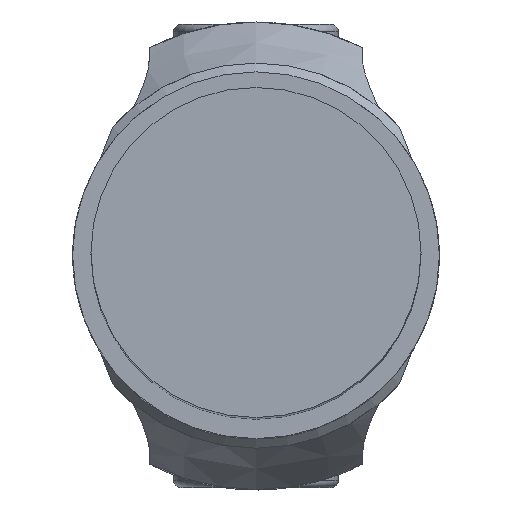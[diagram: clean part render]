
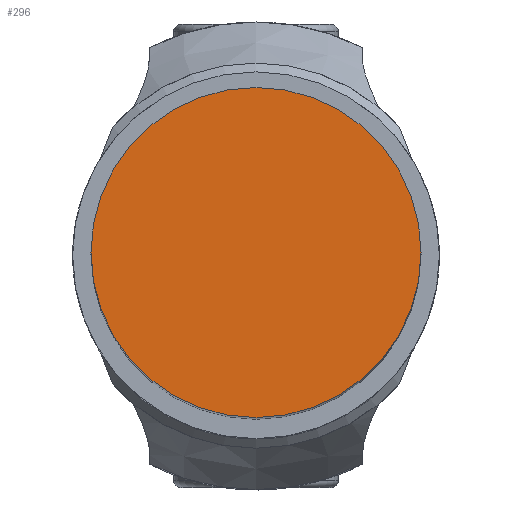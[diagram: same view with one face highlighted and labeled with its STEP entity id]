
A CAD part, top view. The second image highlights one B-rep face of the part: STEP entity #296.
In plain terms, the highlighted planar face has unit normal (0, 0, 1).
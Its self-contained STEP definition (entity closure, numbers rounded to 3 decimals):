
#51 = DIRECTION ( 'NONE',  ( 0., 1., 0. ) ) ;
#296 = ADVANCED_FACE ( 'NONE', ( #1961 ), #1206, .F. ) ;
#334 = EDGE_CURVE ( 'NONE', #2810, #1747, #1628, .T. ) ;
#708 = CARTESIAN_POINT ( 'NONE',  ( 0., -9., -90. ) ) ;
#1016 = ORIENTED_EDGE ( 'NONE', *, *, #2125, .T. ) ;
#1200 = CIRCLE ( 'NONE', #2048, 9. ) ;
#1206 = PLANE ( 'NONE',  #1524 ) ;
#1291 = AXIS2_PLACEMENT_3D ( 'NONE', #1724, #2155, #51 ) ;
#1393 = DIRECTION ( 'NONE',  ( 0., 1., 0. ) ) ;
#1524 = AXIS2_PLACEMENT_3D ( 'NONE', #2898, #1671, #2410 ) ;
#1628 = CIRCLE ( 'NONE', #1291, 9. ) ;
#1661 = ORIENTED_EDGE ( 'NONE', *, *, #334, .T. ) ;
#1671 = DIRECTION ( 'NONE',  ( 0., 0., -1. ) ) ;
#1724 = CARTESIAN_POINT ( 'NONE',  ( 0., 0., -90. ) ) ;
#1747 = VERTEX_POINT ( 'NONE', #708 ) ;
#1891 = CARTESIAN_POINT ( 'NONE',  ( 0., 9., -90. ) ) ;
#1961 = FACE_OUTER_BOUND ( 'NONE', #2117, .T. ) ;
#2048 = AXIS2_PLACEMENT_3D ( 'NONE', #2552, #2064, #1393 ) ;
#2064 = DIRECTION ( 'NONE',  ( 0., 0., 1. ) ) ;
#2117 = EDGE_LOOP ( 'NONE', ( #1661, #1016 ) ) ;
#2125 = EDGE_CURVE ( 'NONE', #1747, #2810, #1200, .T. ) ;
#2155 = DIRECTION ( 'NONE',  ( 0., 0., 1. ) ) ;
#2410 = DIRECTION ( 'NONE',  ( 0., -1., 0. ) ) ;
#2552 = CARTESIAN_POINT ( 'NONE',  ( 0., 0., -90. ) ) ;
#2810 = VERTEX_POINT ( 'NONE', #1891 ) ;
#2898 = CARTESIAN_POINT ( 'NONE',  ( 0., 0., -90. ) ) ;
